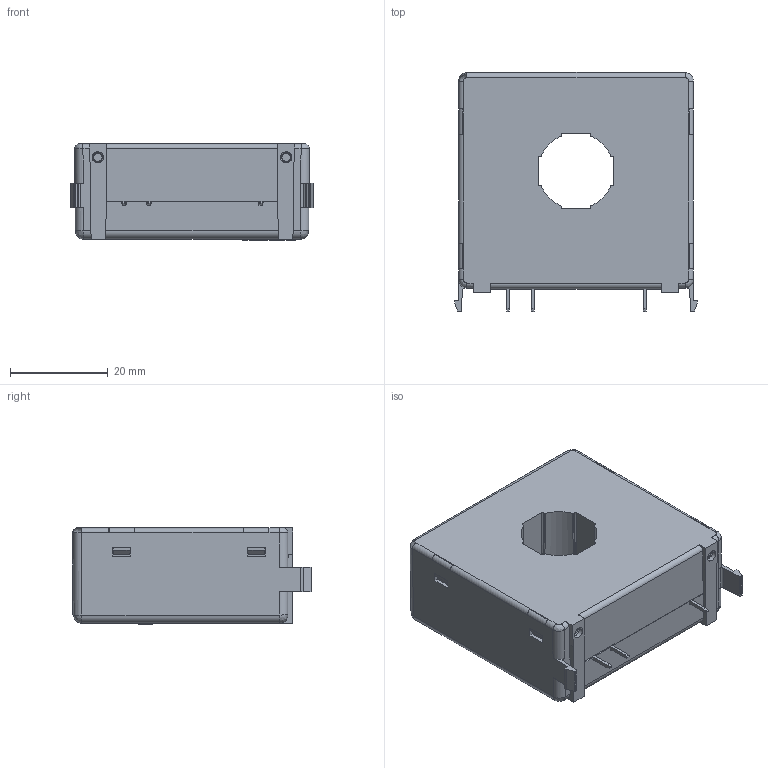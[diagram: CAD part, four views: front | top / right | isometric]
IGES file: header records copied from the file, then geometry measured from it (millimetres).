
Start section: Elysium IGES Interface
Global section: file name: \\Gva50\sd-data\Etudes\GVu\Serie_blackbox\LF 205-P_SP1_blackbox\LF 205-P_SP1_blackbox.igs; native system: SolidDesigner 16.00A  16-Aug-2008; preprocessor: CoCreate IGES_3D V2.2; author: Unknown; organization: Unknown; date: 20090311.152517; units: millimetre
Bounding box: 49.56 x 49.05 x 19.68 mm (x, y, z)
Volume: 37066.6 mm3; surface area: 9916.3 mm2
Topology: 5 solids, 6 shells, 745 faces, 2001 edges, 1289 vertices
Faces by surface type: bspline 745
